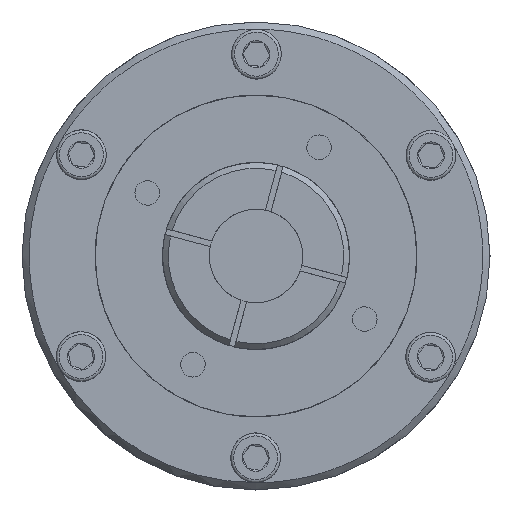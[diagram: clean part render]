
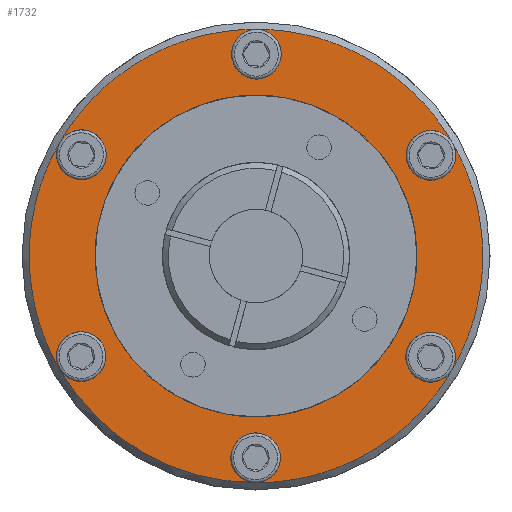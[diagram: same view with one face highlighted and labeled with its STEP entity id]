
A CAD part, left-side view. The second image highlights one B-rep face of the part: STEP entity #1732.
In plain terms, the highlighted planar face has unit normal (-1, 0, 0).
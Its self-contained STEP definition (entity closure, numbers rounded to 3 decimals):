
#1732 = ADVANCED_FACE( '', ( #3298, #3299 ), #3300, .F. );
#3298 = FACE_OUTER_BOUND( '', #4483, .T. );
#3299 = FACE_BOUND( '', #4484, .T. );
#3300 = PLANE( '', #4485 );
#4483 = EDGE_LOOP( '', ( #6225, #6226, #6227, #6228, #6229, #6230, #6231, #6232, #6233, #6234, #6235, #6236 ) );
#4484 = EDGE_LOOP( '', ( #6237 ) );
#4485 = AXIS2_PLACEMENT_3D( '', #6238, #6239, #6240 );
#6225 = ORIENTED_EDGE( '', *, *, #8506, .T. );
#6226 = ORIENTED_EDGE( '', *, *, #8499, .T. );
#6227 = ORIENTED_EDGE( '', *, *, #8507, .T. );
#6228 = ORIENTED_EDGE( '', *, *, #8498, .T. );
#6229 = ORIENTED_EDGE( '', *, *, #8504, .T. );
#6230 = ORIENTED_EDGE( '', *, *, #8503, .T. );
#6231 = ORIENTED_EDGE( '', *, *, #8508, .T. );
#6232 = ORIENTED_EDGE( '', *, *, #8502, .T. );
#6233 = ORIENTED_EDGE( '', *, *, #8509, .T. );
#6234 = ORIENTED_EDGE( '', *, *, #8501, .T. );
#6235 = ORIENTED_EDGE( '', *, *, #8510, .T. );
#6236 = ORIENTED_EDGE( '', *, *, #8500, .T. );
#6237 = ORIENTED_EDGE( '', *, *, #8496, .F. );
#6238 = CARTESIAN_POINT( '', ( -13.499, 40., 0. ) );
#6239 = DIRECTION( '', ( 1., 0., 0. ) );
#6240 = DIRECTION( '', ( 0., 1., 0. ) );
#8496 = EDGE_CURVE( '', #9688, #9688, #9689, .F. );
#8498 = EDGE_CURVE( '', #9692, #9693, #9694, .F. );
#8499 = EDGE_CURVE( '', #9695, #9692, #9696, .F. );
#8500 = EDGE_CURVE( '', #9697, #9695, #9698, .F. );
#8501 = EDGE_CURVE( '', #9699, #9697, #9700, .F. );
#8502 = EDGE_CURVE( '', #9701, #9699, #9702, .F. );
#8503 = EDGE_CURVE( '', #9693, #9701, #9703, .F. );
#8504 = EDGE_CURVE( '', #9693, #9693, #9704, .T. );
#8506 = EDGE_CURVE( '', #9695, #9695, #9707, .T. );
#8507 = EDGE_CURVE( '', #9692, #9692, #9708, .T. );
#8508 = EDGE_CURVE( '', #9701, #9701, #9709, .T. );
#8509 = EDGE_CURVE( '', #9699, #9699, #9710, .T. );
#8510 = EDGE_CURVE( '', #9697, #9697, #9711, .T. );
#9688 = VERTEX_POINT( '', #10976 );
#9689 = CIRCLE( '', #10977, 27.5 );
#9692 = VERTEX_POINT( '', #10980 );
#9693 = VERTEX_POINT( '', #10981 );
#9694 = CIRCLE( '', #10982, 38.75 );
#9695 = VERTEX_POINT( '', #10983 );
#9696 = CIRCLE( '', #10984, 38.75 );
#9697 = VERTEX_POINT( '', #10985 );
#9698 = CIRCLE( '', #10986, 38.75 );
#9699 = VERTEX_POINT( '', #10987 );
#9700 = CIRCLE( '', #10988, 38.75 );
#9701 = VERTEX_POINT( '', #10989 );
#9702 = CIRCLE( '', #10990, 38.75 );
#9703 = CIRCLE( '', #10991, 38.75 );
#9704 = CIRCLE( '', #10992, 4.25 );
#9707 = CIRCLE( '', #10995, 4.25 );
#9708 = CIRCLE( '', #10996, 4.25 );
#9709 = CIRCLE( '', #10997, 4.25 );
#9710 = CIRCLE( '', #10998, 4.25 );
#9711 = CIRCLE( '', #10999, 4.25 );
#10976 = CARTESIAN_POINT( '', ( -13.499, 0., -27.5 ) );
#10977 = AXIS2_PLACEMENT_3D( '', #12317, #12318, #12319 );
#10980 = CARTESIAN_POINT( '', ( -13.499, 33.558, 19.375 ) );
#10981 = CARTESIAN_POINT( '', ( -13.499, 33.558, -19.375 ) );
#10982 = AXIS2_PLACEMENT_3D( '', #12323, #12324, #12325 );
#10983 = CARTESIAN_POINT( '', ( -13.499, 0., 38.75 ) );
#10984 = AXIS2_PLACEMENT_3D( '', #12326, #12327, #12328 );
#10985 = CARTESIAN_POINT( '', ( -13.499, -33.558, 19.375 ) );
#10986 = AXIS2_PLACEMENT_3D( '', #12329, #12330, #12331 );
#10987 = CARTESIAN_POINT( '', ( -13.499, -33.558, -19.375 ) );
#10988 = AXIS2_PLACEMENT_3D( '', #12332, #12333, #12334 );
#10989 = CARTESIAN_POINT( '', ( -13.499, 0., -38.75 ) );
#10990 = AXIS2_PLACEMENT_3D( '', #12335, #12336, #12337 );
#10991 = AXIS2_PLACEMENT_3D( '', #12338, #12339, #12340 );
#10992 = AXIS2_PLACEMENT_3D( '', #12341, #12342, #12343 );
#10995 = AXIS2_PLACEMENT_3D( '', #12347, #12348, #12349 );
#10996 = AXIS2_PLACEMENT_3D( '', #12350, #12351, #12352 );
#10997 = AXIS2_PLACEMENT_3D( '', #12353, #12354, #12355 );
#10998 = AXIS2_PLACEMENT_3D( '', #12356, #12357, #12358 );
#10999 = AXIS2_PLACEMENT_3D( '', #12359, #12360, #12361 );
#12317 = CARTESIAN_POINT( '', ( -13.499, 0., 0. ) );
#12318 = DIRECTION( '', ( 1., 0., 0. ) );
#12319 = DIRECTION( '', ( 0., 0., -1. ) );
#12323 = CARTESIAN_POINT( '', ( -13.499, 0., 0. ) );
#12324 = DIRECTION( '', ( 1., 0., 0. ) );
#12325 = DIRECTION( '', ( 0., 0., -1. ) );
#12326 = CARTESIAN_POINT( '', ( -13.499, 0., 0. ) );
#12327 = DIRECTION( '', ( 1., 0., 0. ) );
#12328 = DIRECTION( '', ( 0., 0., -1. ) );
#12329 = CARTESIAN_POINT( '', ( -13.499, 0., 0. ) );
#12330 = DIRECTION( '', ( 1., 0., 0. ) );
#12331 = DIRECTION( '', ( 0., 0., -1. ) );
#12332 = CARTESIAN_POINT( '', ( -13.499, 0., 0. ) );
#12333 = DIRECTION( '', ( 1., 0., 0. ) );
#12334 = DIRECTION( '', ( 0., 0., -1. ) );
#12335 = CARTESIAN_POINT( '', ( -13.499, 0., 0. ) );
#12336 = DIRECTION( '', ( 1., 0., 0. ) );
#12337 = DIRECTION( '', ( 0., 0., -1. ) );
#12338 = CARTESIAN_POINT( '', ( -13.499, 0., 0. ) );
#12339 = DIRECTION( '', ( 1., 0., 0. ) );
#12340 = DIRECTION( '', ( 0., 0., -1. ) );
#12341 = CARTESIAN_POINT( '', ( -13.499, 29.878, -17.25 ) );
#12342 = DIRECTION( '', ( 1., 0., 0. ) );
#12343 = DIRECTION( '', ( 0., 0., -1. ) );
#12347 = CARTESIAN_POINT( '', ( -13.499, 0., 34.5 ) );
#12348 = DIRECTION( '', ( 1., 0., 0. ) );
#12349 = DIRECTION( '', ( 0., 0., -1. ) );
#12350 = CARTESIAN_POINT( '', ( -13.499, 29.878, 17.25 ) );
#12351 = DIRECTION( '', ( 1., 0., 0. ) );
#12352 = DIRECTION( '', ( 0., 0., -1. ) );
#12353 = CARTESIAN_POINT( '', ( -13.499, 0., -34.5 ) );
#12354 = DIRECTION( '', ( 1., 0., 0. ) );
#12355 = DIRECTION( '', ( 0., 0., -1. ) );
#12356 = CARTESIAN_POINT( '', ( -13.499, -29.878, -17.25 ) );
#12357 = DIRECTION( '', ( 1., 0., 0. ) );
#12358 = DIRECTION( '', ( 0., 0., -1. ) );
#12359 = CARTESIAN_POINT( '', ( -13.499, -29.878, 17.25 ) );
#12360 = DIRECTION( '', ( 1., 0., 0. ) );
#12361 = DIRECTION( '', ( 0., 0., -1. ) );
